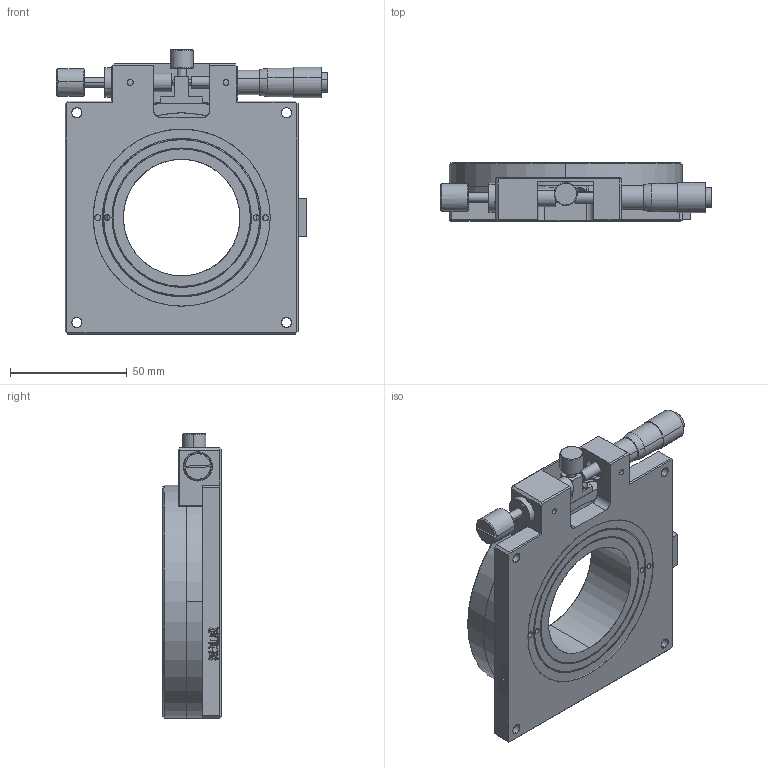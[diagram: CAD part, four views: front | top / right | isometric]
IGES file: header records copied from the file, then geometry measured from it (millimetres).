
Start section: SolidWorks IGES file using analytic representation for surfaces
Global section: file name: 1HC:\Users\dubin\Desktop\0507\PT-SR100（根据三维和样本所画）\PT-SR100反手(2)\PT-SR100反手.IGS; native system: SolidWorks 2017; preprocessor: SolidWorks 2017; author: PDV; date: 230507.163144; units: millimetre
Bounding box: 116.32 x 25 x 122 mm (x, y, z)
Surface area: 75092.1 mm2 (no closed solid volume)
Topology: 0 solids, 0 shells, 526 faces, 9599 edges, 9575 vertices
Faces by surface type: bspline 314, revolution 212
